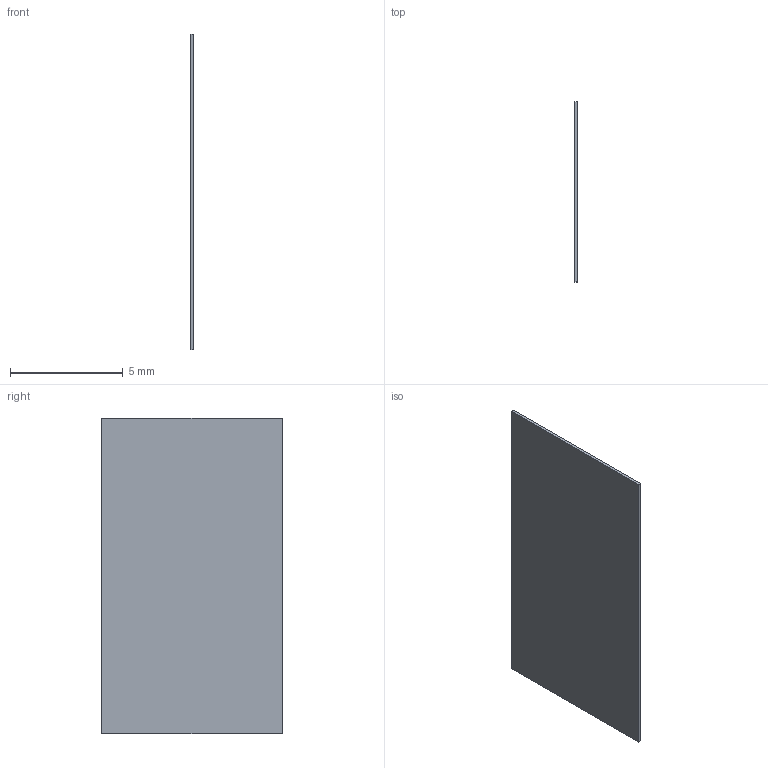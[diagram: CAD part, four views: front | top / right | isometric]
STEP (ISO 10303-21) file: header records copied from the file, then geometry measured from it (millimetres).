
FILE_DESCRIPTION(('Open CASCADE Model'),'2;1');
FILE_NAME('front_grip_PSA_patch_0_13_5','2026-09-08T13:43:18',('Author') ,('Open CASCADE'),'Open CASCADE STEP processor 7.8','build123d', 'Unknown');
FILE_SCHEMA(('AUTOMOTIVE_DESIGN { 1 0 10303 214 1 1 1 1 }'));
Length unit declared in the file: millimetre
Products named in the file (3): =>[0:1:1:2]; front_grip_PSA_patch_0_13_5; SOLID
Assembly tree (2 placements, depth 3):
  =>[0:1:1:2]
    front_grip_PSA_patch_0_13_5
      SOLID
Bounding box: 0.13 x 8 x 14 mm (x, y, z)
Volume: 14.6 mm3; surface area: 229.7 mm2
Topology: 1 solids, 1 shells, 6 faces, 12 edges, 8 vertices
Faces by surface type: plane 6
Entity records: 358 total; most frequent: DIRECTION 54, CARTESIAN_POINT 53, LINE 36, VECTOR 36, ORIENTED_EDGE 24, PCURVE 24, DEFINITIONAL_REPRESENTATION 24, EDGE_CURVE 12
